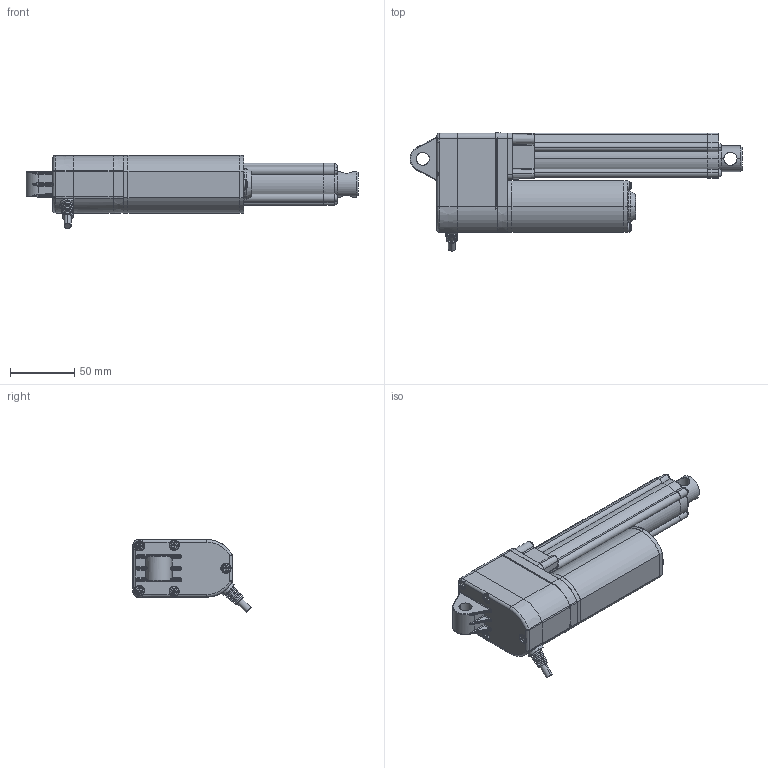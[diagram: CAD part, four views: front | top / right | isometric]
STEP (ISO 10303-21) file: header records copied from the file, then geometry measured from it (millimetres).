
FILE_DESCRIPTION(('STEP AP214'),'1');
FILE_NAME('dj809a2100240a2f021r02111112a01231030070151.stp','2023-10-30T07:01:56',('TraceParts'),('TraceParts S.A.'),'Spatial InterOp 3D',' ',' ');
FILE_SCHEMA(('AUTOMOTIVE_DESIGN { 1 0 10303 214 1 1 1 1 }'));
Length unit declared in the file: millimetre
Products named in the file (1): dj809a2100240a2f021r02111112a01231030070151
Bounding box: 259.11 x 92.14 x 56.99 mm (x, y, z)
Volume: 501906 mm3; surface area: 60945.1 mm2
Topology: 1 solids, 1 shells, 760 faces, 1997 edges, 1242 vertices
Faces by surface type: plane 305, cylinder 202, bspline 127, torus 76, cone 47, sphere 3
Entity records: 35887 total; most frequent: CARTESIAN_POINT 12100, ORIENTED_EDGE 3956, DIRECTION 3460, EDGE_CURVE 1978, AXIS2_PLACEMENT_3D 1315, VERTEX_POINT 1242, LINE 830, VECTOR 830
